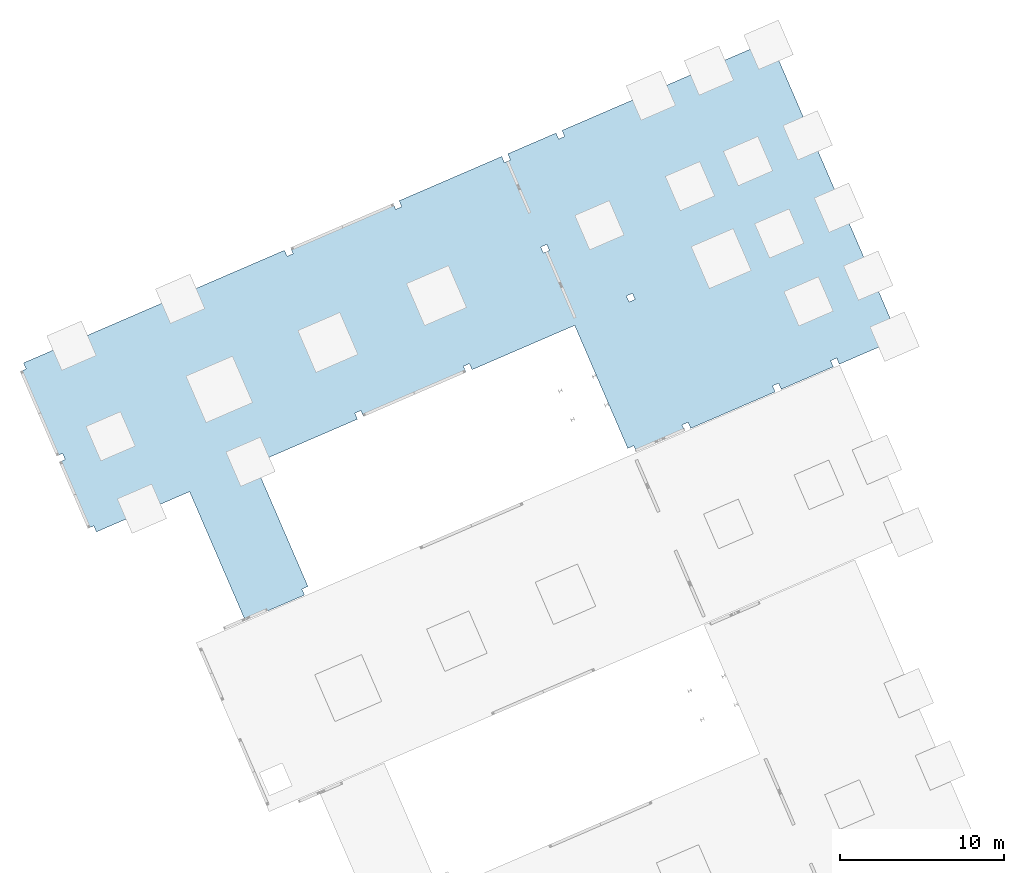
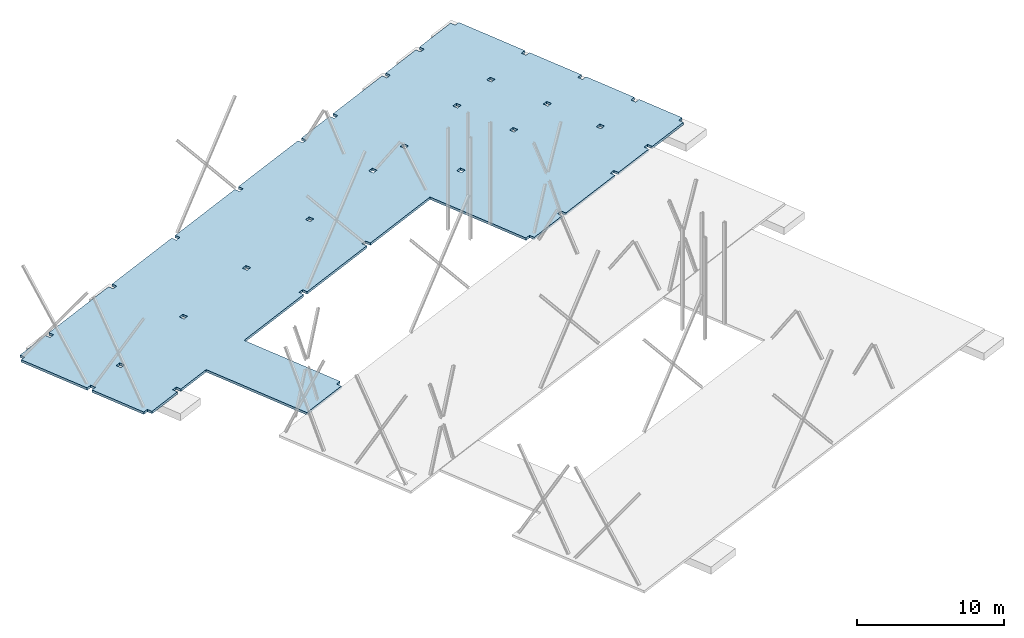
# One storey, part 6 of 6: 1 slab.
"""IFC4 building model written with IfcOpenShell, lengths in metres."""

from ifc_helpers import new_model, entity, si_unit, converted_unit, derived_unit, direction, frame, origin, place, context, subcontext, project, spatial, polygons, material, type_object, element, save


model = new_model("IFC4")

# Units and contexts
model_context = context("Model", 3, precision=1e-05, world=origin(), true_north=direction((6.12323399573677e-17, 1.0)))
body_context = subcontext(model_context, "Body", "Model", "MODEL_VIEW")
ifc_project = project(units=[si_unit("LENGTHUNIT", "METRE"), si_unit("AREAUNIT", "SQUARE_METRE"), si_unit("VOLUMEUNIT", "CUBIC_METRE"), converted_unit("PLANEANGLEUNIT", "DEGREE", entity("IfcPlaneAngleMeasure", 0.0174532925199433), si_unit("PLANEANGLEUNIT", "RADIAN"), dimensions=[0, 0, 0, 0, 0, 0, 0]), si_unit("MASSUNIT", "GRAM", prefix="KILO"), derived_unit("MOMENTOFINERTIAUNIT", [(si_unit("LENGTHUNIT", "METRE"), 4)]), derived_unit("LINEARFORCEUNIT", [(si_unit("MASSUNIT", "GRAM", prefix="KILO"), 1), (si_unit("TIMEUNIT", "SECOND"), -2)]), derived_unit("WARPINGCONSTANTUNIT", [(si_unit("LENGTHUNIT", "METRE"), 6)]), derived_unit("THERMALTRANSMITTANCEUNIT", [(si_unit("MASSUNIT", "GRAM", prefix="KILO"), 1), (si_unit("THERMODYNAMICTEMPERATUREUNIT", "KELVIN"), -1), (si_unit("TIMEUNIT", "SECOND"), -3)]), derived_unit("USERDEFINED", [(si_unit("MASSUNIT", "GRAM", prefix="KILO"), 1), (si_unit("TIMEUNIT", "SECOND"), -2), (si_unit("THERMODYNAMICTEMPERATUREUNIT", "KELVIN"), -1)]), derived_unit("THERMALRESISTANCEUNIT", [(si_unit("MASSUNIT", "GRAM", prefix="KILO"), -1), (si_unit("TIMEUNIT", "SECOND"), 3), (si_unit("THERMODYNAMICTEMPERATUREUNIT", "KELVIN"), 1)])], contexts=[model_context])

# Site, building, storey
site_placement = place(None, origin())
site = spatial("IfcSite", under=ifc_project, at=site_placement, Name="Default", CompositionType="ELEMENT")
building_placement = place(site_placement, frame((12.6613425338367, -82.5732315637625, 317.15), z_axis=(0.0, 0.0, 1.0), x_axis=(-0.396377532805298, 0.918087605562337, 0.0)))
building = spatial("IfcBuilding", under=site, at=building_placement, Name="CESFAM Coyhaique", CompositionType="ELEMENT")
storey_placement = place(building_placement, frame((0.0, 0.0, -0.0500000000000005)))
storey = spatial("IfcBuildingStorey", under=building, at=storey_placement, Name="Nivel 1", CompositionType="ELEMENT", Elevation=-0.0500000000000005)

# Slab
ifc_material = material(Name="HA")
slab_type = type_object("IfcSlabType", Name="Floor:Radier - 100mm", PredefinedType="FLOOR", material=ifc_material)
slab_placement = place(storey_placement, origin())
element("IfcSlab", 1, at=slab_placement, inside=storey, type_object=slab_type, material=ifc_material, Name="Floor:Radier - 100mm", ObjectType="Floor:Radier - 100mm", PredefinedType="FLOOR", context=body_context, shape_type="Tessellation", body=[
    polygons([(35.0188534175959, 14.1278504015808, -0.2), (43.5688534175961, 14.1278504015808, -0.2), (43.5688534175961, 17.0028504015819, -0.2), (43.9688534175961, 17.0028504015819, -0.2), (43.9688534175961, 17.4028504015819, -0.2), (43.5688534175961, 17.4028504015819, -0.2), (43.5688534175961, 20.3028502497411, -0.2), (43.9688534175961, 20.3028502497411, -0.2), (43.9688534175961, 20.7028504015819, -0.2), (48.3688534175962, 20.7028504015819, -0.2), (48.3688534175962, 20.3028502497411, -0.2), (48.7688534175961, 20.3028502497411, -0.2), (48.7688534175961, 20.7028504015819, -0.2), (54.3688534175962, 20.7028504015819, -0.2), (54.3688534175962, 20.3028502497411, -0.2), (54.7688534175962, 20.3028502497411, -0.2), (54.7688534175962, 17.4028504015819, -0.2), (54.3688534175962, 17.4028504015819, -0.2), (54.3688534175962, 17.0028504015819, -0.2), (54.7688534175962, 17.0028504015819, -0.2), (54.7688534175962, 10.2028504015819, -0.2), (54.3688534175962, 10.2028504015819, -0.2), (54.3688534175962, 9.8028504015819, -0.2), (54.7688534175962, 9.8028504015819, -0.2), (54.7688534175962, 3.0028504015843, -0.2), (54.3688534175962, 3.0028504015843, -0.2), (54.3688534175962, 2.6028504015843, -0.2), (54.7688534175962, 2.6028504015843, -0.2), (54.7688534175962, -4.19714959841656, -0.2), (54.3688534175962, -4.19714959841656, -0.2), (54.3688534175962, -4.59714959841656, -0.2), (54.7688534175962, -4.59714959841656, -0.2), (54.7688534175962, -11.3971495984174, -0.2), (54.3688534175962, -11.3971495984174, -0.2), (54.3688534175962, -11.7971495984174, -0.2), (54.7688534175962, -11.7971495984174, -0.2), (54.7688534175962, -14.9971495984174, -0.2), (54.3688534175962, -14.9971495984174, -0.2), (54.3688534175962, -15.3971495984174, -0.2), (54.7688534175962, -15.3971495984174, -0.2), (54.7688534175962, -20.9971495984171, -0.2), (54.3688534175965, -20.9971495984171, -0.2), (54.3688534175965, -21.3971495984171, -0.2), (54.7688534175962, -21.3971495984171, -0.2), (54.7688534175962, -24.8471495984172, -0.2), (54.3688534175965, -24.8471495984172, -0.2), (54.3688534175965, -25.2471495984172, -0.2), (54.7688534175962, -25.2471495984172, -0.2), (54.7688534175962, -28.7971495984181, -0.2), (54.3688534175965, -28.7971495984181, -0.2), (54.3688534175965, -29.1971495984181, -0.2), (48.7688534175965, -29.1971495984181, -0.2), (48.7688534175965, -28.7971495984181, -0.2), (48.3688534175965, -28.7971495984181, -0.2), (48.3688534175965, -29.1971495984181, -0.2), (43.9688534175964, -29.1971495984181, -0.2), (43.9688534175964, -28.797149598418, -0.2), (43.5688534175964, -28.797149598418, -0.2), (43.5688534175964, -29.1971495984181, -0.2), (39.4688534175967, -29.1971495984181, -0.2), (39.4688534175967, -28.797149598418, -0.2), (39.0688534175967, -28.797149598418, -0.2), (39.0688534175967, -29.1971495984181, -0.2), (35.4188534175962, -29.1971495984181, -0.2), (35.4188534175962, -28.797149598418, -0.2), (35.0188534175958, -28.797149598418, -0.2), (35.0188534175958, -25.2471495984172, -0.2), (35.4188534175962, -25.2471495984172, -0.2), (35.4188534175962, -24.8471495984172, -0.2), (35.0188534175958, -24.8471495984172, -0.2), (35.0188534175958, -21.397149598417, -0.2), (35.4188534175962, -21.397149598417, -0.2), (35.4188534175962, -20.997149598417, -0.2), (35.0188534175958, -20.997149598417, -0.2), (35.0188534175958, -15.3971495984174, -0.2), (35.4188534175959, -15.3971495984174, -0.2), (35.4188534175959, -14.9971495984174, -0.2), (35.0188534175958, -14.9971495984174, -0.2), (35.0188534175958, -11.7971495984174, -0.2), (35.4188534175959, -11.7971495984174, -0.2), (35.4188534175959, -11.3971495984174, -0.2), (43.5688534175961, -11.3971495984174, -0.2), (43.5688534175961, -11.7971495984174, -0.2), (43.9688534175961, -11.7971495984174, -0.2), (43.9688534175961, -11.3971495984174, -0.2), (43.5688534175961, -4.59714959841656, -0.2), (43.9688534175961, -4.59714959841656, -0.2), (43.9688534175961, -4.19714959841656, -0.2), (43.5688534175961, -4.19714959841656, -0.2), (43.5688534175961, 2.6028504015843, -0.2), (43.9688534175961, 2.6028504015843, -0.2), (43.9688534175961, 3.0028504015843, -0.2), (43.5688534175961, 3.0028504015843, -0.2), (43.5688534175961, 9.80285040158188, -0.2), (43.9688534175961, 9.8028504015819, -0.2), (43.9688534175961, 10.2028504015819, -0.2), (43.5688534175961, 10.2028504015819, -0.2), (35.4188534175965, 9.8028504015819, -0.2), (35.4188534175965, 10.2028504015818, -0.2), (35.0188534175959, 10.2028504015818, -0.2), (35.0188534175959, 12.3078519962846, -0.2), (35.0188534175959, 12.7078519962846, -0.2), (43.9688534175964, -21.397149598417, -0.2), (43.9688534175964, -20.997149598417, -0.2), (43.5688534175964, -20.997149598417, -0.2), (43.5688534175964, -21.397149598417, -0.2), (48.7688534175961, 17.0028504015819, -0.2), (48.7688534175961, 17.4028504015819, -0.2), (48.3688534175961, 17.4028504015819, -0.2), (48.3688534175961, 17.0028504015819, -0.2), (48.7688534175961, 9.8028504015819, -0.2), (48.7688534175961, 10.2028504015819, -0.2), (48.3688534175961, 10.2028504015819, -0.2), (48.3688534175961, 9.8028504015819, -0.2), (48.7688534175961, 2.6028504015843, -0.2), (48.7688534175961, 3.0028504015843, -0.2), (48.3688534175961, 3.0028504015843, -0.2), (48.3688534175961, 2.6028504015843, -0.2), (48.7688534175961, -4.59714959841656, -0.2), (48.7688534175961, -4.19714959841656, -0.2), (48.3688534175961, -4.19714959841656, -0.2), (48.3688534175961, -4.59714959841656, -0.2), (48.7688534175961, -11.7971495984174, -0.2), (48.7688534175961, -11.3971495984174, -0.2), (48.3688534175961, -11.3971495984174, -0.2), (48.3688534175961, -11.7971495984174, -0.2), (48.7688534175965, -21.3971495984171, -0.2), (48.7688534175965, -20.9971495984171, -0.2), (48.3688534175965, -20.9971495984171, -0.2), (48.3688534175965, -21.3971495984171, -0.2), (43.9688534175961, -15.3971495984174, -0.2), (43.9688534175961, -14.9971495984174, -0.2), (43.5688534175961, -14.9971495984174, -0.2), (43.5688534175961, -15.3971495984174, -0.2), (48.7688534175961, -15.3971495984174, -0.2), (48.7688534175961, -14.9971495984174, -0.2), (48.3688534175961, -14.9971495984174, -0.2), (48.3688534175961, -15.3971495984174, -0.2), (43.9688534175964, -25.2471495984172, -0.2), (43.9688534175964, -24.8471495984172, -0.2), (43.5688534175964, -24.8471495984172, -0.2), (43.5688534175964, -25.2471495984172, -0.2), (48.7688534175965, -25.2471495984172, -0.2), (48.7688534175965, -24.8471495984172, -0.2), (48.3688534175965, -24.8471495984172, -0.2), (48.3688534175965, -25.2471495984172, -0.2), (39.4688534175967, -25.2471495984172, -0.2), (39.4688534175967, -24.8471495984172, -0.2), (39.0688534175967, -24.8471495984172, -0.2), (39.0688534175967, -25.2471495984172, -0.2), (43.5688534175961, 14.1278504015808, 0.0), (35.0188534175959, 14.1278504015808, 0.0), (35.0188534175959, 12.7078519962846, 0.0), (35.0188534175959, 12.3078519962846, 0.0), (35.0188534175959, 10.2028504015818, 0.0), (35.4188534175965, 10.2028504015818, 0.0), (35.4188534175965, 9.8028504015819, 0.0), (43.5688534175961, 9.80285040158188, 0.0), (43.5688534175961, 10.2028504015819, 0.0), (43.9688534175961, 10.2028504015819, 0.0), (43.9688534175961, 9.8028504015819, 0.0), (43.5688534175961, 3.0028504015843, 0.0), (43.9688534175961, 3.0028504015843, 0.0), (43.9688534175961, 2.6028504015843, 0.0), (43.5688534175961, 2.6028504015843, 0.0), (43.5688534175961, -4.19714959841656, 0.0), (43.9688534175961, -4.19714959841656, 0.0), (43.9688534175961, -4.59714959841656, 0.0), (43.5688534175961, -4.59714959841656, 0.0), (43.5688534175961, -11.3971495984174, 0.0), (43.9688534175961, -11.3971495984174, 0.0), (43.9688534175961, -11.7971495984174, 0.0), (43.5688534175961, -11.7971495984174, 0.0), (35.4188534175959, -11.3971495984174, 0.0), (35.4188534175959, -11.7971495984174, 0.0), (35.0188534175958, -11.7971495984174, 0.0), (35.0188534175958, -14.9971495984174, 0.0), (35.4188534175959, -14.9971495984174, 0.0), (35.4188534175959, -15.3971495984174, 0.0), (35.0188534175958, -15.3971495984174, 0.0), (35.0188534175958, -20.997149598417, 0.0), (35.4188534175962, -20.997149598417, 0.0), (35.4188534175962, -21.397149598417, 0.0), (35.0188534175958, -21.397149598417, 0.0), (35.0188534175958, -24.8471495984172, 0.0), (35.4188534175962, -24.8471495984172, 0.0), (35.4188534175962, -25.2471495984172, 0.0), (35.0188534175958, -25.2471495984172, 0.0), (35.0188534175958, -28.797149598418, 0.0), (35.4188534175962, -28.797149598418, 0.0), (35.4188534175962, -29.1971495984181, 6.93889390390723e-18), (39.0688534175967, -29.1971495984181, 6.93889390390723e-18), (39.0688534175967, -28.797149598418, 0.0), (39.4688534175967, -28.797149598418, 0.0), (39.4688534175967, -29.1971495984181, 0.0), (43.5688534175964, -29.1971495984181, 0.0), (43.5688534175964, -28.797149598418, 0.0), (43.9688534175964, -28.797149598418, 0.0), (43.9688534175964, -29.1971495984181, 0.0), (48.3688534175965, -29.1971495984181, 0.0), (48.3688534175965, -28.7971495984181, 0.0), (48.7688534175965, -28.7971495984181, 0.0), (48.7688534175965, -29.1971495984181, 0.0), (54.3688534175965, -29.1971495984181, 0.0), (54.3688534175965, -28.7971495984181, 0.0), (54.7688534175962, -28.7971495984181, 0.0), (54.7688534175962, -25.2471495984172, 0.0), (54.3688534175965, -25.2471495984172, 0.0), (54.3688534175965, -24.8471495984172, 0.0), (54.7688534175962, -24.8471495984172, 0.0), (54.7688534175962, -21.3971495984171, 0.0), (54.3688534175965, -21.3971495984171, 0.0), (54.3688534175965, -20.9971495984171, 0.0), (54.7688534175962, -20.9971495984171, 0.0), (54.7688534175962, -15.3971495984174, 0.0), (54.3688534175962, -15.3971495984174, 0.0), (54.3688534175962, -14.9971495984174, 0.0), (54.7688534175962, -14.9971495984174, 0.0), (54.7688534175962, -11.7971495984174, 0.0), (54.3688534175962, -11.7971495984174, 0.0), (54.3688534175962, -11.3971495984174, 0.0), (54.7688534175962, -11.3971495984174, 0.0), (54.7688534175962, -4.59714959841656, 0.0), (54.3688534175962, -4.59714959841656, 0.0), (54.3688534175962, -4.19714959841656, 0.0), (54.7688534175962, -4.19714959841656, 0.0), (54.7688534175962, 2.6028504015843, 0.0), (54.3688534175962, 2.6028504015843, 0.0), (54.3688534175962, 3.0028504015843, 0.0), (54.7688534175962, 3.0028504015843, 0.0), (54.7688534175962, 9.8028504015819, 0.0), (54.3688534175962, 9.8028504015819, 0.0), (54.3688534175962, 10.2028504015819, 0.0), (54.7688534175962, 10.2028504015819, 0.0), (54.7688534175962, 17.0028504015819, 0.0), (54.3688534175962, 17.0028504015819, 0.0), (54.3688534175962, 17.4028504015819, 0.0), (54.7688534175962, 17.4028504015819, 0.0), (54.7688534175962, 20.3028502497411, 0.0), (54.3688534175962, 20.3028502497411, 0.0), (54.3688534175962, 20.7028504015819, 0.0), (48.7688534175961, 20.7028504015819, 0.0), (48.7688534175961, 20.3028502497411, 0.0), (48.3688534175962, 20.3028502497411, 0.0), (48.3688534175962, 20.7028504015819, 0.0), (43.9688534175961, 20.7028504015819, 0.0), (43.9688534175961, 20.3028502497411, 0.0), (43.5688534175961, 20.3028502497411, 0.0), (43.5688534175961, 17.4028504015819, 0.0), (43.9688534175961, 17.4028504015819, 0.0), (43.9688534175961, 17.0028504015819, 0.0), (43.5688534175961, 17.0028504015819, 0.0), (43.9688534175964, -20.997149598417, 0.0), (43.9688534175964, -21.397149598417, 0.0), (43.5688534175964, -21.397149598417, 0.0), (43.5688534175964, -20.997149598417, 0.0), (48.7688534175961, 17.4028504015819, 0.0), (48.7688534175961, 17.0028504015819, 0.0), (48.3688534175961, 17.0028504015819, 0.0), (48.3688534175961, 17.4028504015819, 0.0), (48.7688534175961, 10.2028504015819, 0.0), (48.7688534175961, 9.8028504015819, 0.0), (48.3688534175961, 9.8028504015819, 0.0), (48.3688534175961, 10.2028504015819, 0.0), (48.7688534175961, 3.0028504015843, 0.0), (48.7688534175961, 2.6028504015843, 0.0), (48.3688534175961, 2.6028504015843, 0.0), (48.3688534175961, 3.0028504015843, 0.0), (48.7688534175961, -4.19714959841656, 0.0), (48.7688534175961, -4.59714959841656, 0.0), (48.3688534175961, -4.59714959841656, 0.0), (48.3688534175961, -4.19714959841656, 0.0), (48.7688534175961, -11.3971495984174, 0.0), (48.7688534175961, -11.7971495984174, 0.0), (48.3688534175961, -11.7971495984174, 0.0), (48.3688534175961, -11.3971495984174, 0.0), (48.7688534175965, -20.9971495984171, 0.0), (48.7688534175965, -21.3971495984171, 0.0), (48.3688534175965, -21.3971495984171, 0.0), (48.3688534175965, -20.9971495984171, 0.0), (43.9688534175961, -14.9971495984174, 0.0), (43.9688534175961, -15.3971495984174, 0.0), (43.5688534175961, -15.3971495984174, 0.0), (43.5688534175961, -14.9971495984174, 0.0), (48.7688534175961, -14.9971495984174, 0.0), (48.7688534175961, -15.3971495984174, 0.0), (48.3688534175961, -15.3971495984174, 0.0), (48.3688534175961, -14.9971495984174, 0.0), (43.9688534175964, -24.8471495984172, 0.0), (43.9688534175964, -25.2471495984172, 0.0), (43.5688534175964, -25.2471495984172, 0.0), (43.5688534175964, -24.8471495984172, 0.0), (48.7688534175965, -24.8471495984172, 0.0), (48.7688534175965, -25.2471495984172, 0.0), (48.3688534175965, -25.2471495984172, 0.0), (48.3688534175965, -24.8471495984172, 0.0), (39.4688534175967, -24.8471495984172, 0.0), (39.4688534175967, -25.2471495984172, 0.0), (39.0688534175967, -25.2471495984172, 0.0), (39.0688534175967, -24.8471495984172, 0.0)], [[[1, 2, 3, 4, 5, 6, 7, 8, 9, 10, 11, 12, 13, 14, 15, 16, 17, 18, 19, 20, 21, 22, 23, 24, 25, 26, 27, 28, 29, 30, 31, 32, 33, 34, 35, 36, 37, 38, 39, 40, 41, 42, 43, 44, 45, 46, 47, 48, 49, 50, 51, 52, 53, 54, 55, 56, 57, 58, 59, 60, 61, 62, 63, 64, 65, 66, 67, 68, 69, 70, 71, 72, 73, 74, 75, 76, 77, 78, 79, 80, 81, 82, 83, 84, 85, 82, 86, 87, 88, 89, 90, 91, 92, 93, 94, 95, 96, 97, 94, 98, 99, 100, 101, 102], [103, 104, 105, 106], [107, 108, 109, 110], [111, 112, 113, 114], [115, 116, 117, 118], [119, 120, 121, 122], [123, 124, 125, 126], [127, 128, 129, 130], [131, 132, 133, 134], [135, 136, 137, 138], [139, 140, 141, 142], [143, 144, 145, 146], [147, 148, 149, 150]], [[151, 152, 153, 154, 155, 156, 157, 158, 159, 160, 161, 158, 162, 163, 164, 165, 166, 167, 168, 169, 170, 171, 172, 173, 170, 174, 175, 176, 177, 178, 179, 180, 181, 182, 183, 184, 185, 186, 187, 188, 189, 190, 191, 192, 193, 194, 195, 196, 197, 198, 199, 200, 201, 202, 203, 204, 205, 206, 207, 208, 209, 210, 211, 212, 213, 214, 215, 216, 217, 218, 219, 220, 221, 222, 223, 224, 225, 226, 227, 228, 229, 230, 231, 232, 233, 234, 235, 236, 237, 238, 239, 240, 241, 242, 243, 244, 245, 246, 247, 248, 249, 250, 251, 252], [253, 254, 255, 256], [257, 258, 259, 260], [261, 262, 263, 264], [265, 266, 267, 268], [269, 270, 271, 272], [273, 274, 275, 276], [277, 278, 279, 280], [281, 282, 283, 284], [285, 286, 287, 288], [289, 290, 291, 292], [293, 294, 295, 296], [297, 298, 299, 300]], [[170, 82, 81, 174]], [[82, 170, 169, 86]], [[94, 158, 157, 98]], [[152, 1, 102, 101, 100, 155, 154, 153]], [[2, 1, 152, 151]], [[6, 249, 248, 7]], [[9, 246, 245, 10]], [[20, 235, 234, 21]], [[59, 196, 195, 60]], [[66, 189, 188, 67]], [[4, 251, 250, 5]], [[251, 4, 3, 252]], [[5, 250, 249, 6]], [[95, 161, 160, 96]], [[94, 158, 161, 95]], [[158, 94, 97, 159]], [[159, 97, 96, 160]], [[91, 164, 163, 92]], [[164, 91, 90, 165]], [[92, 163, 162, 93]], [[87, 168, 167, 88]], [[168, 87, 86, 169]], [[88, 167, 166, 89]], [[84, 172, 171, 85]], [[172, 84, 83, 173]], [[82, 170, 173, 83]], [[170, 82, 85, 171]], [[103, 254, 253, 104]], [[254, 103, 106, 255]], [[255, 106, 105, 256]], [[256, 105, 104, 253]], [[107, 258, 257, 108]], [[258, 107, 110, 259]], [[259, 110, 109, 260]], [[260, 109, 108, 257]], [[111, 262, 261, 112]], [[262, 111, 114, 263]], [[263, 114, 113, 264]], [[264, 113, 112, 261]], [[115, 266, 265, 116]], [[266, 115, 118, 267]], [[267, 118, 117, 268]], [[268, 117, 116, 265]], [[119, 270, 269, 120]], [[270, 119, 122, 271]], [[271, 122, 121, 272]], [[272, 121, 120, 269]], [[123, 274, 273, 124]], [[274, 123, 126, 275]], [[275, 126, 125, 276]], [[276, 125, 124, 273]], [[127, 278, 277, 128]], [[278, 127, 130, 279]], [[279, 130, 129, 280]], [[280, 129, 128, 277]], [[19, 236, 235, 20]], [[236, 19, 18, 237]], [[237, 18, 17, 238]], [[23, 232, 231, 24]], [[232, 23, 22, 233]], [[233, 22, 21, 234]], [[27, 228, 227, 28]], [[228, 27, 26, 229]], [[229, 26, 25, 230]], [[31, 224, 223, 32]], [[224, 31, 30, 225]], [[225, 30, 29, 226]], [[35, 220, 219, 36]], [[220, 35, 34, 221]], [[221, 34, 33, 222]], [[43, 212, 211, 44]], [[212, 43, 42, 213]], [[213, 42, 41, 214]], [[198, 57, 56, 199]], [[58, 197, 196, 59]], [[197, 58, 57, 198]], [[202, 53, 52, 203]], [[54, 201, 200, 55]], [[201, 54, 53, 202]], [[50, 205, 204, 51]], [[205, 50, 49, 206]], [[131, 282, 281, 132]], [[282, 131, 134, 283]], [[283, 134, 133, 284]], [[284, 133, 132, 281]], [[135, 286, 285, 136]], [[286, 135, 138, 287]], [[287, 138, 137, 288]], [[288, 137, 136, 285]], [[39, 216, 215, 40]], [[216, 39, 38, 217]], [[217, 38, 37, 218]], [[8, 247, 246, 9]], [[247, 8, 7, 248]], [[12, 243, 242, 13]], [[243, 12, 11, 244]], [[244, 11, 10, 245]], [[15, 240, 239, 16]], [[240, 15, 14, 241]], [[139, 290, 289, 140]], [[290, 139, 142, 291]], [[291, 142, 141, 292]], [[292, 141, 140, 289]], [[143, 294, 293, 144]], [[294, 143, 146, 295]], [[295, 146, 145, 296]], [[296, 145, 144, 293]], [[47, 208, 207, 48]], [[208, 47, 46, 209]], [[209, 46, 45, 210]], [[80, 175, 174, 81]], [[175, 80, 79, 176]], [[72, 183, 182, 73]], [[183, 72, 71, 184]], [[73, 182, 181, 74]], [[190, 65, 64, 191]], [[65, 190, 189, 66]], [[76, 179, 178, 77]], [[179, 76, 75, 180]], [[77, 178, 177, 78]], [[68, 187, 186, 69]], [[187, 68, 67, 188]], [[69, 186, 185, 70]], [[194, 61, 60, 195]], [[62, 193, 192, 63]], [[193, 62, 61, 194]], [[147, 298, 297, 148]], [[298, 147, 150, 299]], [[299, 150, 149, 300]], [[300, 149, 148, 297]], [[156, 99, 98, 157]], [[99, 156, 155, 100]], [[74, 181, 180, 75]], [[176, 79, 78, 177]], [[184, 71, 70, 185]], [[203, 52, 51, 204]], [[199, 56, 55, 200]], [[191, 64, 63, 192]], [[24, 231, 230, 25]], [[28, 227, 226, 29]], [[32, 223, 222, 33]], [[36, 219, 218, 37]], [[44, 211, 210, 45]], [[238, 17, 16, 239]], [[214, 41, 40, 215]], [[206, 49, 48, 207]], [[13, 242, 241, 14]], [[2, 151, 252, 3]], [[165, 90, 89, 166]], [[158, 94, 93, 162]]], closed=True),
])

save(model, "model.ifc")
